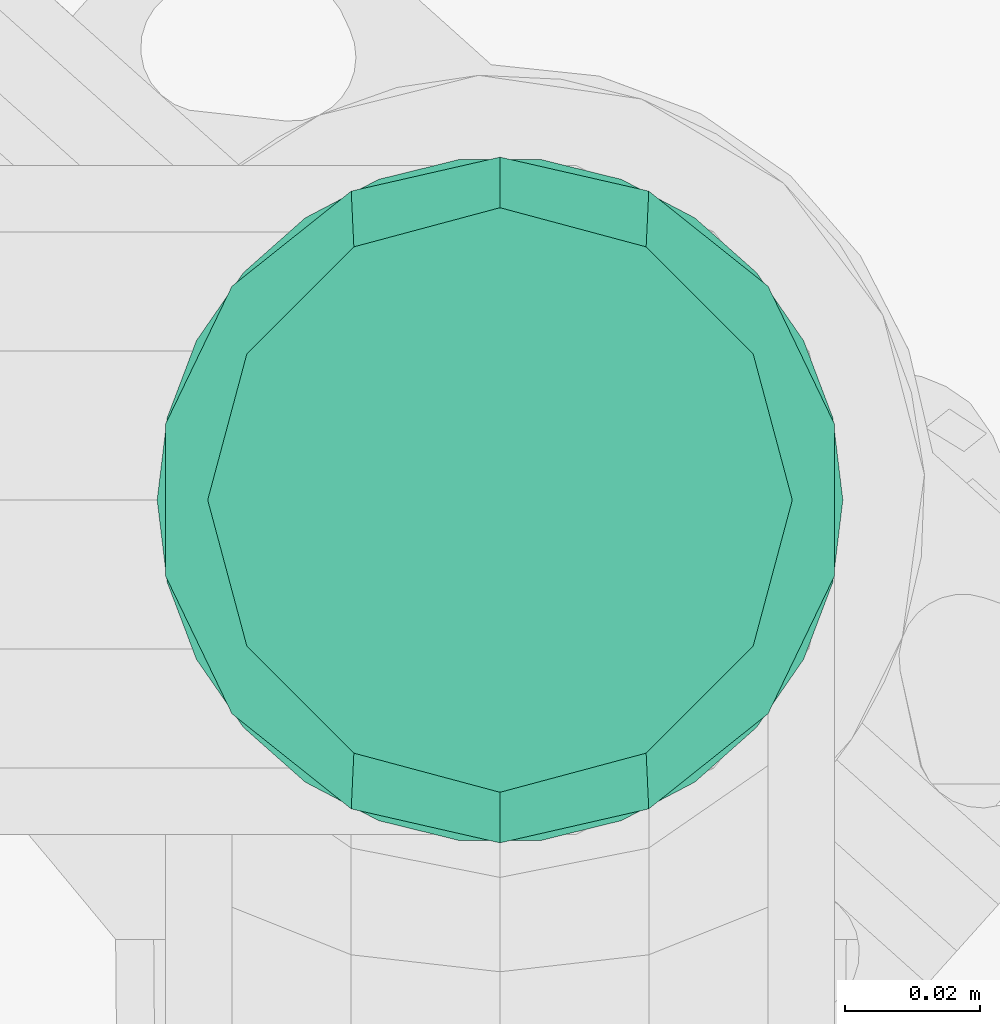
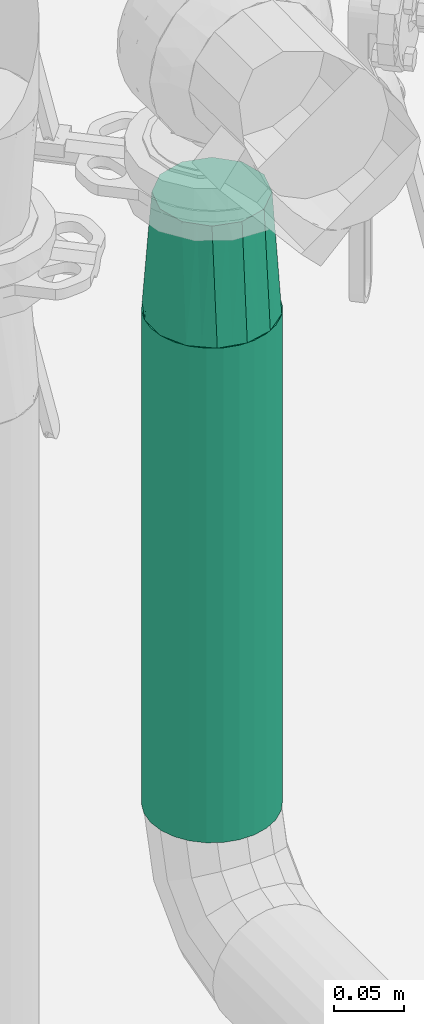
# One storey, part 10 of 43: 1 flow fitting, 1 flow segment.
"""IFC2X3 building model written with IfcOpenShell, lengths in millimetres."""

from ifc_helpers import new_model, entity, si_unit, converted_unit, derived_unit, direction, frame, frame_2d, origin, place, context, subcontext, project, spatial, circle, extrude, faceted_brep, source, transform, mapped, material, type_object, type_shapes, element, save


model = new_model("IFC2X3")

# Units and contexts
model_context = context("Model", 3, precision=0.01, world=origin(), true_north=direction((6.123031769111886e-17, 1.0)))
body_context = subcontext(model_context, "Body", "Model", "MODEL_VIEW")
ifc_project = project(units=[si_unit("LENGTHUNIT", "METRE", prefix="MILLI"), si_unit("AREAUNIT", "SQUARE_METRE"), si_unit("VOLUMEUNIT", "CUBIC_METRE"), converted_unit("PLANEANGLEUNIT", "DEGREE", entity("IfcRatioMeasure", 0.017453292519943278), si_unit("PLANEANGLEUNIT", "RADIAN"), dimensions=[0, 0, 0, 0, 0, 0, 0]), si_unit("MASSUNIT", "GRAM", prefix="KILO"), derived_unit("MASSDENSITYUNIT", [(si_unit("MASSUNIT", "GRAM", prefix="KILO"), 1), (si_unit("LENGTHUNIT", "METRE"), -3)]), derived_unit("MOMENTOFINERTIAUNIT", [(si_unit("LENGTHUNIT", "METRE"), 4)]), si_unit("TIMEUNIT", "SECOND"), si_unit("FREQUENCYUNIT", "HERTZ"), si_unit("THERMODYNAMICTEMPERATUREUNIT", "DEGREE_CELSIUS"), derived_unit("THERMALTRANSMITTANCEUNIT", [(si_unit("MASSUNIT", "GRAM", prefix="KILO"), 1), (si_unit("THERMODYNAMICTEMPERATUREUNIT", "KELVIN"), -1), (si_unit("TIMEUNIT", "SECOND"), -3)]), derived_unit("VOLUMETRICFLOWRATEUNIT", [(si_unit("LENGTHUNIT", "METRE"), 3), (si_unit("TIMEUNIT", "SECOND"), -1)]), derived_unit("MASSFLOWRATEUNIT", [(si_unit("MASSUNIT", "GRAM", prefix="KILO"), 1), (si_unit("TIMEUNIT", "SECOND"), -1)]), derived_unit("ROTATIONALFREQUENCYUNIT", [(si_unit("TIMEUNIT", "SECOND"), -1)]), si_unit("ELECTRICCURRENTUNIT", "AMPERE"), si_unit("ELECTRICVOLTAGEUNIT", "VOLT"), si_unit("POWERUNIT", "WATT"), si_unit("FORCEUNIT", "NEWTON", prefix="KILO"), si_unit("ILLUMINANCEUNIT", "LUX"), si_unit("LUMINOUSFLUXUNIT", "LUMEN"), si_unit("LUMINOUSINTENSITYUNIT", "CANDELA"), derived_unit("USERDEFINED", [(si_unit("MASSUNIT", "GRAM", prefix="KILO"), -1), (si_unit("LENGTHUNIT", "METRE"), -2), (si_unit("TIMEUNIT", "SECOND"), 3), (si_unit("LUMINOUSFLUXUNIT", "LUMEN"), 1)]), derived_unit("SOUNDPOWERUNIT", [(si_unit("MASSUNIT", "GRAM", prefix="KILO"), 1), (si_unit("LENGTHUNIT", "METRE"), 2), (si_unit("TIMEUNIT", "SECOND"), -3)]), derived_unit("SOUNDPRESSUREUNIT", [(si_unit("MASSUNIT", "GRAM", prefix="KILO"), 1), (si_unit("LENGTHUNIT", "METRE"), -1), (si_unit("TIMEUNIT", "SECOND"), -2)]), derived_unit("LINEARVELOCITYUNIT", [(si_unit("LENGTHUNIT", "METRE"), 1), (si_unit("TIMEUNIT", "SECOND"), -1)]), si_unit("PRESSUREUNIT", "PASCAL"), derived_unit("USERDEFINED", [(si_unit("LENGTHUNIT", "METRE"), -2), (si_unit("MASSUNIT", "GRAM", prefix="KILO"), 1), (si_unit("TIMEUNIT", "SECOND"), -2)]), derived_unit("LINEARFORCEUNIT", [(si_unit("MASSUNIT", "GRAM", prefix="KILO"), 1), (si_unit("LENGTHUNIT", "METRE"), 1), (si_unit("TIMEUNIT", "SECOND"), -2), (si_unit("LENGTHUNIT", "METRE"), -1)]), derived_unit("PLANARFORCEUNIT", [(si_unit("MASSUNIT", "GRAM", prefix="KILO"), 1), (si_unit("LENGTHUNIT", "METRE"), 1), (si_unit("TIMEUNIT", "SECOND"), -2), (si_unit("LENGTHUNIT", "METRE"), -2)])], contexts=[model_context])

# Site, building, storey
site_placement = place(None, origin())
site = spatial("IfcSite", under=ifc_project, at=site_placement, Name="Default", CompositionType="ELEMENT")
building_placement = place(site_placement, origin())
building = spatial("IfcBuilding", under=site, at=building_placement, CompositionType="ELEMENT")
storey_placement = place(building_placement, frame((0.0, 0.0, 270.0)))
storey = spatial("IfcBuildingStorey", under=building, at=storey_placement, Name="Niveau 0", CompositionType="ELEMENT", Elevation=270.0)

# Flow segment
pipe_segment_type = type_object("IfcPipeSegmentType", Name="Canalisation:tube acier", PredefinedType="NOTDEFINED")
flow_segment_placement = place(storey_placement, origin())
element("IfcFlowSegment", 1, at=flow_segment_placement, inside=storey, type_object=pipe_segment_type, Name="Canalisation:tube acier", ObjectType="Canalisation:tube acier", context=body_context, shape_type="SweptSolid", body=[
    extrude(circle(Radius=50.8, at=frame_2d((2.707167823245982e-13, -2.1657342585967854e-12), x_axis=(1.0, 0.0))), frame((-2018.2631800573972, -12830.0, 830.966643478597), z_axis=(0.0, 0.0, 1.0), x_axis=(-1.0, 0.0, 0.0)), (0.0, 0.0, 1.0), 434.32450965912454),
])

# Flow fitting
ifc_material = material(Name="<Unnamed>")
pipe_fitting_type = type_object("IfcPipeFittingType", Name="Transformation - Générique:Standard", PredefinedType="NOTDEFINED", material=ifc_material)
shared_shape = source(origin(), body_context, "Body", "Brep", [
    faceted_brep([(102.0, -43.30898437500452, 0.0), (102.0, -40.40783252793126, -10.82724609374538), (102.0, -37.506680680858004, -21.654492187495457), (102.0, -29.58058643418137, -29.580586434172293), (102.0, -21.654492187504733, -37.50668068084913), (102.0, -10.827246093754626, -40.40783252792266), (102.0, 0.0, -43.30898437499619), (102.0, 10.827246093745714, -40.407832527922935), (102.0, 21.654492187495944, -37.506680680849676), (102.0, 29.580586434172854, -29.58058643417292), (102.0, 37.506680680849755, -21.654492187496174), (102.0, 40.407832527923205, -10.827246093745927), (102.0, 43.308984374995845, 0.0), (102.0, 40.407832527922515, 10.827246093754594), (102.0, 37.50668068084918, 21.654492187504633), (102.0, 29.580586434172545, 29.580586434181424), (102.0, 21.65449218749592, 37.50668068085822), (102.0, 10.827246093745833, 40.407832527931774), (102.0, 0.0, 43.30898437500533), (102.0, -10.827246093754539, 40.40783252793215), (102.0, -21.654492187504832, 37.50668068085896), (102.0, -29.58058643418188, 29.580586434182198), (102.0, -37.50668068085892, 21.654492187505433), (102.0, -40.407832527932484, 10.827246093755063), (0.0, -45.769218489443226, -22.041293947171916), (0.0, -48.284609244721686, -11.020646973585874), (0.0, -50.800000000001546, 0.0), (0.0, -48.284609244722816, 11.020646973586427), (0.0, -45.76921848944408, 22.04129394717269), (0.0, -38.721250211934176, 30.879166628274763), (0.0, -31.673281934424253, 39.71703930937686), (0.0, -21.488672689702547, 44.621688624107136), (0.0, -11.304063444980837, 49.52633793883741), (0.0, 0.0, 49.52633793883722), (0.0, 11.30406344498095, 49.526337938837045), (0.0, 21.488672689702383, 44.621688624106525), (0.0, 31.673281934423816, 39.717039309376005), (0.0, 38.72125021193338, 30.87916662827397), (0.0, 45.769218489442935, 22.04129394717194), (0.0, 48.284609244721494, 11.02064697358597), (0.0, 50.800000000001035, 0.0), (0.0, 48.28460924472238, -11.020646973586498), (0.0, 45.76921848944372, -22.041293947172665), (0.0, 38.721250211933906, -30.879166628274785), (0.0, 31.67328193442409, -39.717039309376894), (0.0, 21.48867268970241, -44.62168862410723), (0.0, 11.304063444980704, -49.526337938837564), (0.0, 0.0, -49.52633793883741), (0.0, -11.304063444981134, -49.52633793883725), (0.0, -21.48867268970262, -44.62168862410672), (0.0, -31.67328193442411, -39.71703930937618), (0.0, -38.721250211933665, -30.879166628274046)], [[[0, 1, 2, 3, 4, 5, 6, 7, 8, 9, 10, 11, 12, 13, 14, 15, 16, 17, 18, 19, 20, 21, 22, 23]], [[24, 25, 26, 27, 28, 29, 30, 31, 32, 33, 34, 35, 36, 37, 38, 39, 40, 41, 42, 43, 44, 45, 46, 47, 48, 49, 50, 51]], [[45, 44, 8]], [[11, 42, 41]], [[43, 42, 10]], [[10, 42, 11]], [[45, 7, 46]], [[0, 25, 1]], [[9, 8, 44]], [[6, 48, 47, 46]], [[4, 50, 49]], [[50, 4, 3]], [[49, 5, 4]], [[25, 0, 26]], [[7, 6, 46]], [[51, 2, 24]], [[9, 44, 43]], [[12, 41, 40]], [[49, 48, 5]], [[12, 11, 41]], [[24, 2, 1]], [[2, 51, 3]], [[10, 9, 43]], [[7, 45, 8]], [[48, 6, 5]], [[51, 50, 3]], [[25, 24, 1]], [[31, 30, 20]], [[23, 28, 27]], [[29, 28, 22]], [[22, 28, 23]], [[31, 19, 32]], [[12, 39, 13]], [[21, 20, 30]], [[18, 34, 33, 32]], [[16, 36, 35]], [[36, 16, 15]], [[35, 17, 16]], [[39, 12, 40]], [[19, 18, 32]], [[37, 14, 38]], [[21, 30, 29]], [[0, 27, 26]], [[35, 34, 17]], [[0, 23, 27]], [[38, 14, 13]], [[14, 37, 15]], [[22, 21, 29]], [[19, 31, 20]], [[34, 18, 17]], [[37, 36, 15]], [[39, 38, 13]]]),
])
type_shapes(pipe_fitting_type, [shared_shape])
flow_fitting_placement = place(storey_placement, frame((-2018.2631800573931, -12830.0, 1265.291153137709), z_axis=(-1.0, 0.0, 0.0), x_axis=(0.0, 0.0, 1.0)))
element("IfcFlowFitting", 2, at=flow_fitting_placement, inside=storey, type_object=pipe_fitting_type, material=ifc_material, Name="Transformation - Générique:Standard", ObjectType="Transformation - Générique:Standard", context=body_context, shape_type="MappedRepresentation", body=[
    mapped(shared_shape, transform((0.0, 0.0, 0.0), scale=1.0)),
])

save(model, "model.ifc")
